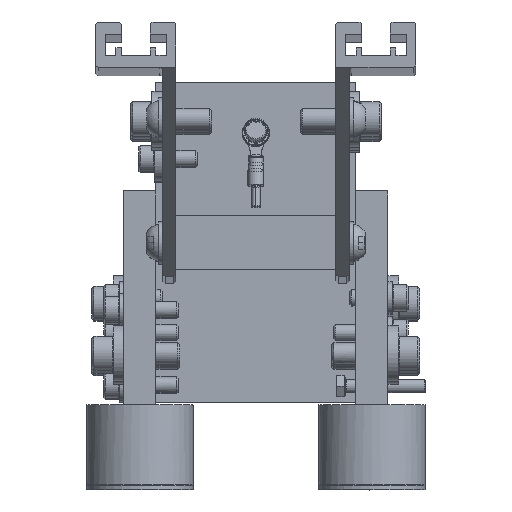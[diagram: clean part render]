
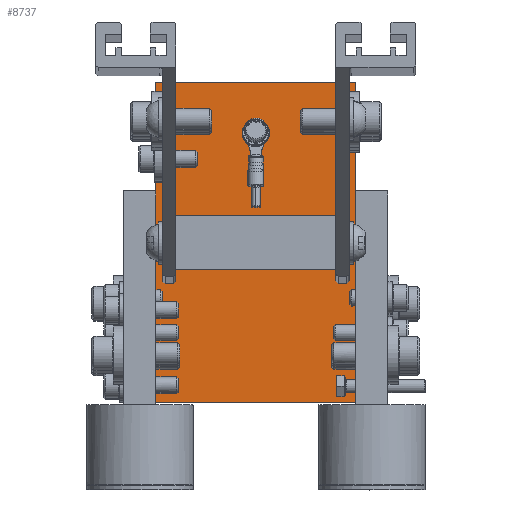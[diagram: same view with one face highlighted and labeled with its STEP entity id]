
A CAD part, top view. The second image highlights one B-rep face of the part: STEP entity #8737.
In plain terms, the highlighted planar face has unit normal (0, 0, 1).
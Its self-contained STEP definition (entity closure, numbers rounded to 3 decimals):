
#352=LINE('',#13930,#856);
#380=LINE('',#14111,#884);
#396=LINE('',#14220,#900);
#402=LINE('',#14275,#906);
#420=LINE('',#14382,#924);
#430=LINE('',#14399,#934);
#433=LINE('',#14525,#937);
#435=LINE('',#14527,#939);
#460=LINE('',#14691,#964);
#461=LINE('',#14692,#965);
#856=VECTOR('',#11042,1000.);
#884=VECTOR('',#11228,1000.);
#900=VECTOR('',#11334,1000.);
#906=VECTOR('',#11384,1000.);
#924=VECTOR('',#11488,1000.);
#934=VECTOR('',#11500,1000.);
#937=VECTOR('',#11647,1000.);
#939=VECTOR('',#11649,1000.);
#964=VECTOR('',#11854,1000.);
#965=VECTOR('',#11855,1000.);
#1375=PLANE('',#9735);
#2618=ORIENTED_EDGE('',*,*,#4066,.F.);
#2619=ORIENTED_EDGE('',*,*,#4254,.F.);
#2620=ORIENTED_EDGE('',*,*,#4382,.F.);
#2621=ORIENTED_EDGE('',*,*,#4265,.F.);
#2622=ORIENTED_EDGE('',*,*,#4383,.F.);
#2623=ORIENTED_EDGE('',*,*,#4205,.T.);
#2624=ORIENTED_EDGE('',*,*,#4185,.T.);
#2625=ORIENTED_EDGE('',*,*,#4318,.T.);
#2626=ORIENTED_EDGE('',*,*,#4142,.T.);
#2627=ORIENTED_EDGE('',*,*,#4316,.T.);
#4066=EDGE_CURVE('',#5067,#5068,#352,.T.);
#4142=EDGE_CURVE('',#5142,#5141,#380,.T.);
#4185=EDGE_CURVE('',#5182,#5181,#396,.T.);
#4205=EDGE_CURVE('',#5201,#5182,#402,.T.);
#4254=EDGE_CURVE('',#5238,#5067,#420,.T.);
#4265=EDGE_CURVE('',#5110,#5095,#430,.T.);
#4316=EDGE_CURVE('',#5141,#5068,#433,.T.);
#4318=EDGE_CURVE('',#5181,#5142,#435,.T.);
#4382=EDGE_CURVE('',#5095,#5238,#460,.T.);
#4383=EDGE_CURVE('',#5201,#5110,#461,.T.);
#5067=VERTEX_POINT('',#13929);
#5068=VERTEX_POINT('',#13931);
#5095=VERTEX_POINT('',#13995);
#5110=VERTEX_POINT('',#14030);
#5141=VERTEX_POINT('',#14110);
#5142=VERTEX_POINT('',#14112);
#5181=VERTEX_POINT('',#14219);
#5182=VERTEX_POINT('',#14221);
#5201=VERTEX_POINT('',#14276);
#5238=VERTEX_POINT('',#14381);
#6672=EDGE_LOOP('',(#2618,#2619,#2620,#2621,#2622,#2623,#2624,#2625,#2626,
#2627));
#7688=FACE_BOUND('',#6672,.T.);
#8737=ADVANCED_FACE('',(#7688),#1375,.T.);
#9735=AXIS2_PLACEMENT_3D('',#14690,#11852,#11853);
#11042=DIRECTION('',(-1.,0.,0.));
#11228=DIRECTION('',(0.,-1.,0.));
#11334=DIRECTION('',(0.,-1.,0.));
#11384=DIRECTION('',(-1.,0.,0.));
#11488=DIRECTION('',(0.,-1.,0.));
#11500=DIRECTION('',(0.,-1.,0.));
#11647=DIRECTION('',(0.,-1.,0.));
#11649=DIRECTION('',(0.,-1.,0.));
#11852=DIRECTION('',(0.,0.,1.));
#11853=DIRECTION('',(1.,0.,0.));
#11854=DIRECTION('',(0.,-1.,0.));
#11855=DIRECTION('',(0.,-1.,0.));
#13929=CARTESIAN_POINT('',(37.5,-139.5,-1735.));
#13930=CARTESIAN_POINT('',(37.5,-139.5,-1735.));
#13931=CARTESIAN_POINT('',(-37.5,-139.5,-1735.));
#13995=CARTESIAN_POINT('',(37.5,-98.25,-1735.));
#14030=CARTESIAN_POINT('',(37.5,-62.5,-1735.));
#14110=CARTESIAN_POINT('',(-37.5,-106.75,-1735.));
#14111=CARTESIAN_POINT('',(-37.5,-19.5,-1735.));
#14112=CARTESIAN_POINT('',(-37.5,-98.25,-1735.));
#14219=CARTESIAN_POINT('',(-37.5,-62.5,-1735.));
#14220=CARTESIAN_POINT('',(-37.5,-19.5,-1735.));
#14221=CARTESIAN_POINT('',(-37.5,-19.5,-1735.));
#14275=CARTESIAN_POINT('',(37.5,-19.5,-1735.));
#14276=CARTESIAN_POINT('',(37.5,-19.5,-1735.));
#14381=CARTESIAN_POINT('',(37.5,-106.75,-1735.));
#14382=CARTESIAN_POINT('',(37.5,-102.5,-1735.));
#14399=CARTESIAN_POINT('',(37.5,-102.5,-1735.));
#14525=CARTESIAN_POINT('',(-37.5,-19.5,-1735.));
#14527=CARTESIAN_POINT('',(-37.5,-19.5,-1735.));
#14690=CARTESIAN_POINT('',(37.5,-19.5,-1735.));
#14691=CARTESIAN_POINT('',(37.5,-19.5,-1735.));
#14692=CARTESIAN_POINT('',(37.5,-102.5,-1735.));
